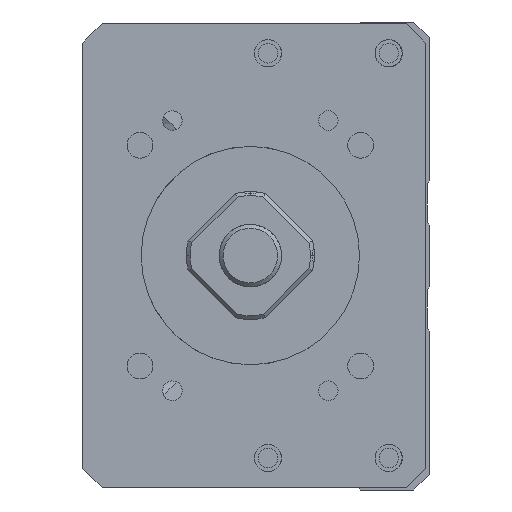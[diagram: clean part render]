
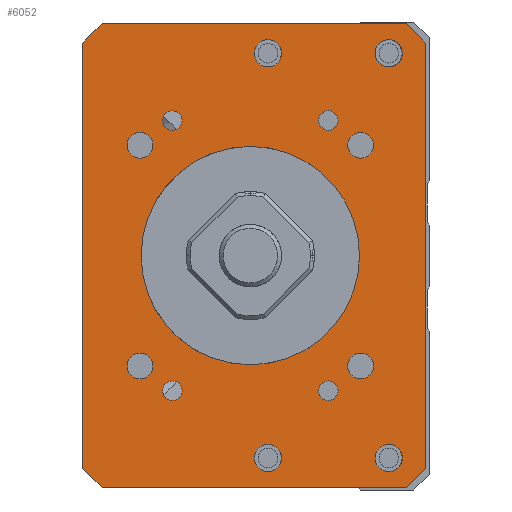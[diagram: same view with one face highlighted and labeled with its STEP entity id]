
A CAD part, left-side view. The second image highlights one B-rep face of the part: STEP entity #6052.
In plain terms, the highlighted planar face has unit normal (-1, 0, 0).
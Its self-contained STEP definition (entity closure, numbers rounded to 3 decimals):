
#188=LINE('',#17811,#1009);
#190=LINE('',#17835,#1011);
#191=LINE('',#17837,#1012);
#192=LINE('',#17839,#1013);
#193=LINE('',#17841,#1014);
#194=LINE('',#17843,#1015);
#195=LINE('',#17845,#1016);
#196=LINE('',#17847,#1017);
#1009=VECTOR('',#14807,1.);
#1011=VECTOR('',#14831,1.);
#1012=VECTOR('',#14832,1.);
#1013=VECTOR('',#14833,1.);
#1014=VECTOR('',#14834,1.);
#1015=VECTOR('',#14835,1.);
#1016=VECTOR('',#14836,1.);
#1017=VECTOR('',#14837,1.);
#5626=FACE_BOUND('',#7468,.T.);
#5627=FACE_BOUND('',#7469,.T.);
#5628=FACE_BOUND('',#7470,.T.);
#5629=FACE_BOUND('',#7471,.T.);
#5630=FACE_BOUND('',#7472,.T.);
#5631=FACE_BOUND('',#7473,.T.);
#5632=FACE_BOUND('',#7474,.T.);
#5633=FACE_BOUND('',#7475,.T.);
#5634=FACE_BOUND('',#7476,.T.);
#5635=FACE_BOUND('',#7477,.T.);
#5636=FACE_BOUND('',#7478,.T.);
#5637=FACE_BOUND('',#7479,.T.);
#5638=FACE_BOUND('',#7480,.T.);
#5639=FACE_BOUND('',#7481,.T.);
#6052=ADVANCED_FACE('',(#5626,#5627,#5628,#5629,#5630,#5631,#5632,#5633,
#5634,#5635,#5636,#5637,#5638,#5639),#6655,.F.);
#6655=PLANE('',#13797);
#7468=EDGE_LOOP('',(#8350));
#7469=EDGE_LOOP('',(#8351));
#7470=EDGE_LOOP('',(#8352));
#7471=EDGE_LOOP('',(#8353));
#7472=EDGE_LOOP('',(#8354));
#7473=EDGE_LOOP('',(#8355));
#7474=EDGE_LOOP('',(#8356));
#7475=EDGE_LOOP('',(#8357));
#7476=EDGE_LOOP('',(#8358));
#7477=EDGE_LOOP('',(#8359,#8360,#8361,#8362,#8363,#8364,#8365,#8366));
#7478=EDGE_LOOP('',(#8367));
#7479=EDGE_LOOP('',(#8368));
#7480=EDGE_LOOP('',(#8369));
#7481=EDGE_LOOP('',(#8370));
#8350=ORIENTED_EDGE('',*,*,#12056,.F.);
#8351=ORIENTED_EDGE('',*,*,#12057,.F.);
#8352=ORIENTED_EDGE('',*,*,#12058,.F.);
#8353=ORIENTED_EDGE('',*,*,#12059,.F.);
#8354=ORIENTED_EDGE('',*,*,#12060,.F.);
#8355=ORIENTED_EDGE('',*,*,#12061,.T.);
#8356=ORIENTED_EDGE('',*,*,#12062,.F.);
#8357=ORIENTED_EDGE('',*,*,#12063,.F.);
#8358=ORIENTED_EDGE('',*,*,#12064,.F.);
#8359=ORIENTED_EDGE('',*,*,#12053,.T.);
#8360=ORIENTED_EDGE('',*,*,#12065,.T.);
#8361=ORIENTED_EDGE('',*,*,#12066,.F.);
#8362=ORIENTED_EDGE('',*,*,#12067,.T.);
#8363=ORIENTED_EDGE('',*,*,#12068,.F.);
#8364=ORIENTED_EDGE('',*,*,#12069,.T.);
#8365=ORIENTED_EDGE('',*,*,#12070,.T.);
#8366=ORIENTED_EDGE('',*,*,#12071,.T.);
#8367=ORIENTED_EDGE('',*,*,#12072,.F.);
#8368=ORIENTED_EDGE('',*,*,#12073,.F.);
#8369=ORIENTED_EDGE('',*,*,#12074,.F.);
#8370=ORIENTED_EDGE('',*,*,#12033,.F.);
#11063=VERTEX_POINT('',#17734);
#11083=VERTEX_POINT('',#17810);
#11084=VERTEX_POINT('',#17812);
#11086=VERTEX_POINT('',#17818);
#11087=VERTEX_POINT('',#17820);
#11088=VERTEX_POINT('',#17822);
#11089=VERTEX_POINT('',#17824);
#11090=VERTEX_POINT('',#17826);
#11091=VERTEX_POINT('',#17828);
#11092=VERTEX_POINT('',#17830);
#11093=VERTEX_POINT('',#17832);
#11094=VERTEX_POINT('',#17834);
#11095=VERTEX_POINT('',#17836);
#11096=VERTEX_POINT('',#17838);
#11097=VERTEX_POINT('',#17840);
#11098=VERTEX_POINT('',#17842);
#11099=VERTEX_POINT('',#17844);
#11100=VERTEX_POINT('',#17846);
#11101=VERTEX_POINT('',#17849);
#11102=VERTEX_POINT('',#17851);
#11103=VERTEX_POINT('',#17853);
#12033=EDGE_CURVE('',#11063,#11063,#13407,.T.);
#12053=EDGE_CURVE('',#11084,#11083,#188,.T.);
#12056=EDGE_CURVE('',#11086,#11086,#13416,.T.);
#12057=EDGE_CURVE('',#11087,#11087,#13417,.T.);
#12058=EDGE_CURVE('',#11088,#11088,#13418,.T.);
#12059=EDGE_CURVE('',#11089,#11089,#13419,.T.);
#12060=EDGE_CURVE('',#11090,#11090,#13420,.T.);
#12061=EDGE_CURVE('',#11091,#11091,#13421,.T.);
#12062=EDGE_CURVE('',#11092,#11092,#13422,.T.);
#12063=EDGE_CURVE('',#11093,#11093,#13423,.T.);
#12064=EDGE_CURVE('',#11094,#11094,#13424,.T.);
#12065=EDGE_CURVE('',#11083,#11095,#190,.T.);
#12066=EDGE_CURVE('',#11096,#11095,#191,.T.);
#12067=EDGE_CURVE('',#11096,#11097,#192,.T.);
#12068=EDGE_CURVE('',#11098,#11097,#193,.T.);
#12069=EDGE_CURVE('',#11098,#11099,#194,.T.);
#12070=EDGE_CURVE('',#11099,#11100,#195,.T.);
#12071=EDGE_CURVE('',#11100,#11084,#196,.T.);
#12072=EDGE_CURVE('',#11101,#11101,#13425,.T.);
#12073=EDGE_CURVE('',#11102,#11102,#13426,.T.);
#12074=EDGE_CURVE('',#11103,#11103,#13427,.T.);
#13407=CIRCLE('',#13774,14.);
#13416=CIRCLE('',#13785,1.65);
#13417=CIRCLE('',#13786,1.65);
#13418=CIRCLE('',#13787,1.65);
#13419=CIRCLE('',#13788,1.65);
#13420=CIRCLE('',#13789,1.25);
#13421=CIRCLE('',#13790,1.75);
#13422=CIRCLE('',#13791,1.25);
#13423=CIRCLE('',#13792,1.75);
#13424=CIRCLE('',#13793,1.25);
#13425=CIRCLE('',#13794,1.75);
#13426=CIRCLE('',#13795,1.75);
#13427=CIRCLE('',#13796,1.25);
#13774=AXIS2_PLACEMENT_3D('',#17733,#14781,#14782);
#13785=AXIS2_PLACEMENT_3D('',#17817,#14813,#14814);
#13786=AXIS2_PLACEMENT_3D('',#17819,#14815,#14816);
#13787=AXIS2_PLACEMENT_3D('',#17821,#14817,#14818);
#13788=AXIS2_PLACEMENT_3D('',#17823,#14819,#14820);
#13789=AXIS2_PLACEMENT_3D('',#17825,#14821,#14822);
#13790=AXIS2_PLACEMENT_3D('',#17827,#14823,#14824);
#13791=AXIS2_PLACEMENT_3D('',#17829,#14825,#14826);
#13792=AXIS2_PLACEMENT_3D('',#17831,#14827,#14828);
#13793=AXIS2_PLACEMENT_3D('',#17833,#14829,#14830);
#13794=AXIS2_PLACEMENT_3D('',#17848,#14838,#14839);
#13795=AXIS2_PLACEMENT_3D('',#17850,#14840,#14841);
#13796=AXIS2_PLACEMENT_3D('',#17852,#14842,#14843);
#13797=AXIS2_PLACEMENT_3D('',#17854,#14844,#14845);
#14781=DIRECTION('',(-1.,0.,0.));
#14782=DIRECTION('',(0.,1.,0.));
#14807=DIRECTION('',(0.,0.,-1.));
#14813=DIRECTION('',(-1.,0.,0.));
#14814=DIRECTION('',(0.,0.,1.));
#14815=DIRECTION('',(-1.,0.,0.));
#14816=DIRECTION('',(0.,0.,1.));
#14817=DIRECTION('',(-1.,0.,0.));
#14818=DIRECTION('',(0.,0.,1.));
#14819=DIRECTION('',(-1.,0.,0.));
#14820=DIRECTION('',(0.,0.,1.));
#14821=DIRECTION('',(-1.,0.,0.));
#14822=DIRECTION('',(0.,1.,0.));
#14823=DIRECTION('',(1.,0.,0.));
#14824=DIRECTION('',(0.,0.,1.));
#14825=DIRECTION('',(-1.,0.,0.));
#14826=DIRECTION('',(0.,1.,0.));
#14827=DIRECTION('',(-1.,0.,0.));
#14828=DIRECTION('',(0.,0.,1.));
#14829=DIRECTION('',(-1.,0.,0.));
#14830=DIRECTION('',(0.,1.,0.));
#14831=DIRECTION('',(0.,-0.707,-0.707));
#14832=DIRECTION('',(0.,1.,0.));
#14833=DIRECTION('',(0.,-0.707,0.707));
#14834=DIRECTION('',(0.,0.,-1.));
#14835=DIRECTION('',(0.,0.707,0.707));
#14836=DIRECTION('',(0.,1.,0.));
#14837=DIRECTION('',(0.,0.707,-0.707));
#14838=DIRECTION('',(-1.,0.,0.));
#14839=DIRECTION('',(0.,0.,1.));
#14840=DIRECTION('',(-1.,0.,0.));
#14841=DIRECTION('',(0.,0.,1.));
#14842=DIRECTION('',(-1.,0.,0.));
#14843=DIRECTION('',(0.,1.,0.));
#14844=DIRECTION('',(1.,0.,0.));
#14845=DIRECTION('',(0.,1.,0.));
#17733=CARTESIAN_POINT('',(-211.,0.,-400.));
#17734=CARTESIAN_POINT('',(-211.,14.,-400.));
#17810=CARTESIAN_POINT('',(-211.,21.499,-427.25));
#17811=CARTESIAN_POINT('',(-211.,21.499,-370.25));
#17812=CARTESIAN_POINT('',(-211.,21.499,-372.75));
#17817=CARTESIAN_POINT('',(-211.,14.142,-385.858));
#17818=CARTESIAN_POINT('',(-211.,14.142,-384.208));
#17819=CARTESIAN_POINT('',(-211.,-14.142,-385.858));
#17820=CARTESIAN_POINT('',(-211.,-14.142,-384.208));
#17821=CARTESIAN_POINT('',(-211.,14.142,-414.142));
#17822=CARTESIAN_POINT('',(-211.,14.142,-412.492));
#17823=CARTESIAN_POINT('',(-211.,-14.142,-414.142));
#17824=CARTESIAN_POINT('',(-211.,-14.142,-412.492));
#17825=CARTESIAN_POINT('',(-211.,-10.,-417.321));
#17826=CARTESIAN_POINT('',(-211.,-8.75,-417.321));
#17827=CARTESIAN_POINT('',(-211.,-2.25,-425.936));
#17828=CARTESIAN_POINT('',(-211.,-2.25,-424.186));
#17829=CARTESIAN_POINT('',(-211.,10.,-382.679));
#17830=CARTESIAN_POINT('',(-211.,11.25,-382.679));
#17831=CARTESIAN_POINT('',(-211.,-2.25,-374.064));
#17832=CARTESIAN_POINT('',(-211.,-2.25,-372.314));
#17833=CARTESIAN_POINT('',(-211.,10.,-417.321));
#17834=CARTESIAN_POINT('',(-211.,11.25,-417.321));
#17835=CARTESIAN_POINT('',(-211.,18.999,-429.75));
#17836=CARTESIAN_POINT('',(-211.,18.999,-429.75));
#17837=CARTESIAN_POINT('',(-211.,-22.501,-429.75));
#17838=CARTESIAN_POINT('',(-211.,-20.001,-429.75));
#17839=CARTESIAN_POINT('',(-211.,-22.501,-427.25));
#17840=CARTESIAN_POINT('',(-211.,-22.501,-427.25));
#17841=CARTESIAN_POINT('',(-211.,-22.501,-370.25));
#17842=CARTESIAN_POINT('',(-211.,-22.501,-372.75));
#17843=CARTESIAN_POINT('',(-211.,-22.501,-372.75));
#17844=CARTESIAN_POINT('',(-211.,-20.001,-370.25));
#17845=CARTESIAN_POINT('',(-211.,-22.501,-370.25));
#17846=CARTESIAN_POINT('',(-211.,18.999,-370.25));
#17847=CARTESIAN_POINT('',(-211.,18.999,-370.25));
#17848=CARTESIAN_POINT('',(-211.,-17.75,-374.064));
#17849=CARTESIAN_POINT('',(-211.,-17.75,-372.314));
#17850=CARTESIAN_POINT('',(-211.,-17.75,-425.936));
#17851=CARTESIAN_POINT('',(-211.,-17.75,-424.186));
#17852=CARTESIAN_POINT('',(-211.,-10.,-382.679));
#17853=CARTESIAN_POINT('',(-211.,-8.75,-382.679));
#17854=CARTESIAN_POINT('',(-211.,-22.501,-370.25));
